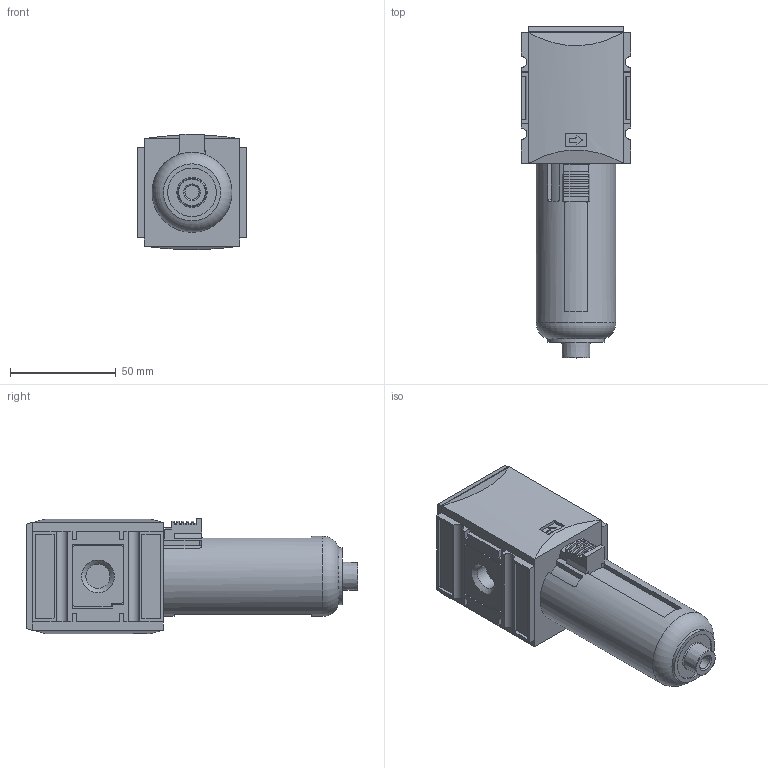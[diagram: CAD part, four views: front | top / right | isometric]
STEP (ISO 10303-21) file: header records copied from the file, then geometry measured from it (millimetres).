
FILE_DESCRIPTION( ( 'STEP AP214' ), ' ' );
FILE_NAME( 'p:/temp/worker_4556/4704_5884/app_52_02017011214484662335557192d056f_000000_00_00_000000/format_1/FU 891.stp', '2017-01-12T13:48:48', ( '' ), ( '' ), ' ', 'PARTsolutions', ' ' );
FILE_SCHEMA( ( 'AUTOMOTIVE_DESIGN { 1 0 10303 214 1 1 1 1 }' ) );
Length unit declared in the file: millimetre
Products named in the file (3): FU 891; _FU 891-1; _FU 891-4
Assembly tree (2 placements, depth 2):
  FU 891
    _FU 891-1
    _FU 891-4
Bounding box: 52 x 157 x 54.49 mm (x, y, z)
Volume: 257152.4 mm3; surface area: 35571.2 mm2
Topology: 2 solids, 2 shells, 261 faces, 687 edges, 451 vertices
Faces by surface type: plane 190, cylinder 62, cone 6, torus 3
Full cylindrical faces by diameter (mm): 6.647 x1, 11.445 x2, 23 x1, 27 x1, 37.8 x1
Entity records: 10082 total; most frequent: CARTESIAN_POINT 1444, ORIENTED_EDGE 1336, DIRECTION 1334, EDGE_CURVE 668, LINE 514, VECTOR 514, VERTEX_POINT 448, AXIS2_PLACEMENT_3D 410
